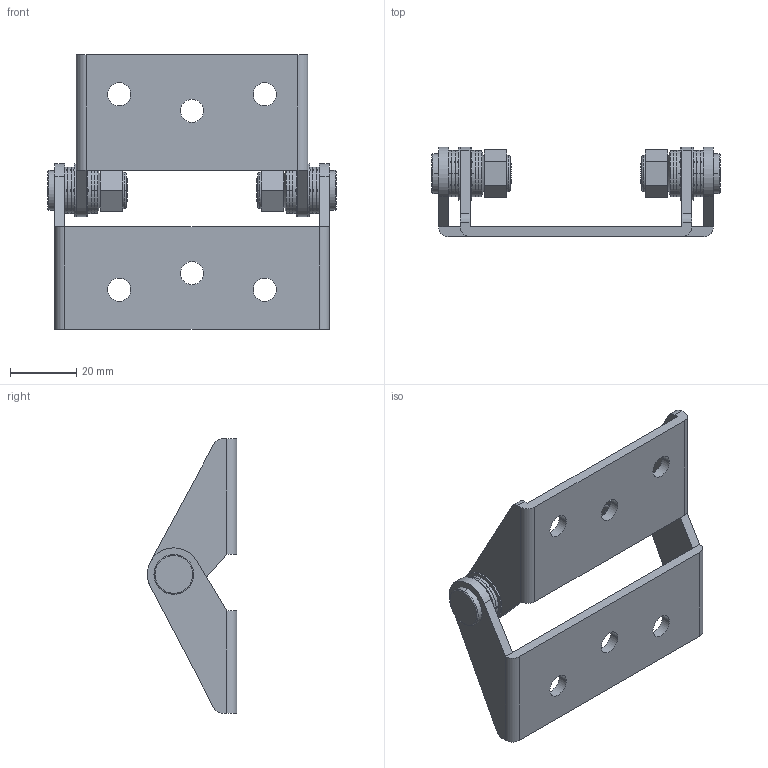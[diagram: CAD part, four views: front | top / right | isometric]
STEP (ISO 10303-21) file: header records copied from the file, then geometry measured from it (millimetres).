
FILE_DESCRIPTION((''),'2;1');
FILE_NAME('XG11-147-2_ASM','2025-09-12T09:13:25',('haicaihuang'),(''),'CREO PARAMETRIC BY PTC INC, 2018050','CREO PARAMETRIC BY PTC INC, 2018050','');
FILE_SCHEMA(('CONFIG_CONTROL_DESIGN'));
Length unit declared in the file: millimetre
Products named in the file (8): 232-C030-2207; 232-C030-2208; 211-M012-0240; 245-0010-0009; 245-0005-0006; 245-0010-0005; 242-0802-001; XG11-147-2_ASM
Assembly tree (22 placements, depth 2):
  XG11-147-2_ASM
    232-C030-2207
    232-C030-2208
    211-M012-0240  x2
    245-0010-0009  x8
    245-0005-0006  x4
    245-0010-0005  x4
    242-0802-001  x2
Bounding box: 87 x 27 x 83 mm (x, y, z)
Volume: 26313 mm3; surface area: 24967.6 mm2
Topology: 22 solids, 22 shells, 480 faces, 1272 edges, 836 vertices
Faces by surface type: plane 320, cylinder 124, cone 20, torus 8, bspline 8
Entity records: 7032 total; most frequent: CARTESIAN_POINT 2878, DIRECTION 851, ORIENTED_EDGE 804, EDGE_CURVE 402, AXIS2_PLACEMENT_3D 324, VERTEX_POINT 262, VECTOR 203, LINE 203
